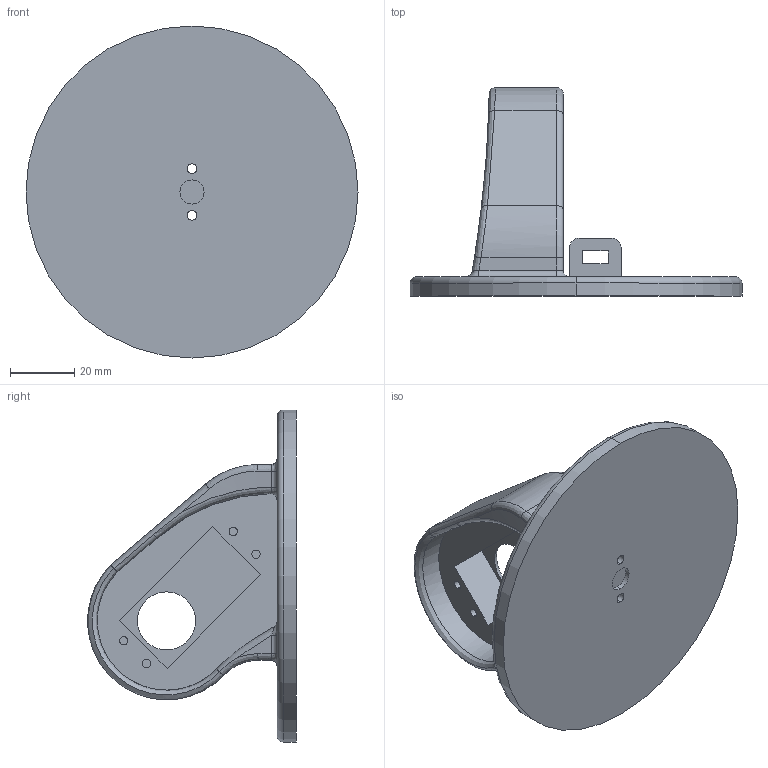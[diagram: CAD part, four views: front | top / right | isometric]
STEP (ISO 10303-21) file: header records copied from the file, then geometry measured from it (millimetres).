
FILE_DESCRIPTION (( 'STEP AP203' ), '1' );
FILE_NAME ('Waist.STEP', '2021-09-16T07:08:18', ( '' ), ( '' ), 'SwSTEP 2.0', 'SolidWorks 2019', '' );
FILE_SCHEMA (( 'CONFIG_CONTROL_DESIGN' ));
Length unit declared in the file: millimetre
Products named in the file (1): Waist
Bounding box: 103 x 64.75 x 103 mm (x, y, z)
Volume: 89946.4 mm3; surface area: 30329 mm2
Topology: 1 solids, 1 shells, 87 faces, 207 edges, 129 vertices
Faces by surface type: cylinder 32, plane 27, bspline 18, torus 10
Entity records: 3734 total; most frequent: CARTESIAN_POINT 1700, ORIENTED_EDGE 414, DIRECTION 393, EDGE_CURVE 207, AXIS2_PLACEMENT_3D 154, VERTEX_POINT 129, EDGE_LOOP 102, ADVANCED_FACE 87
